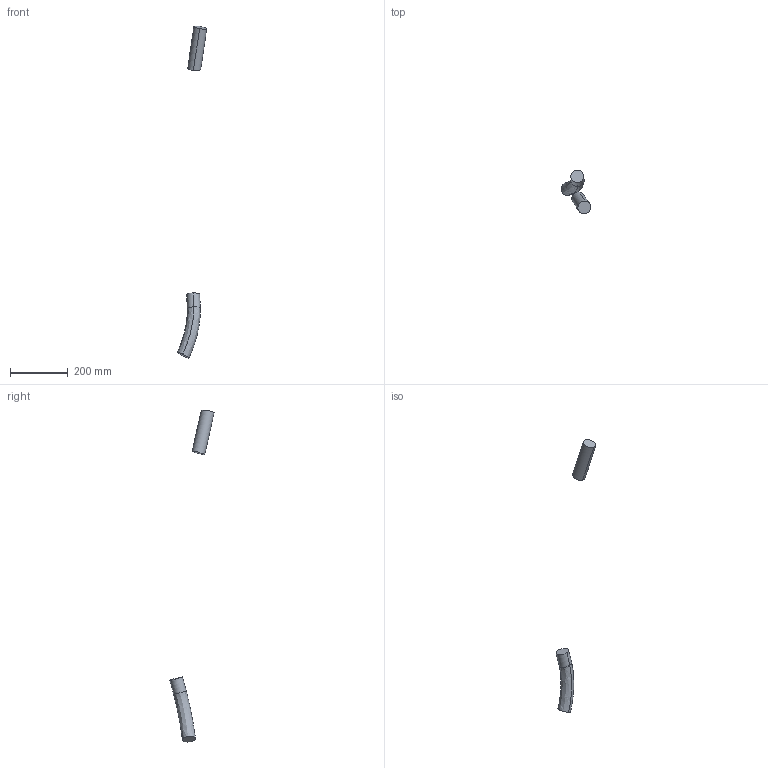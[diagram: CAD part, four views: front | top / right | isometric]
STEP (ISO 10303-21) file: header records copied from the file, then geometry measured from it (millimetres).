
FILE_DESCRIPTION (( 'STEP AP214' ), '1' );
FILE_NAME ('IRB5720-MH3_125kg-300_OmniCore_rev00_LINK02_CABLE.step', '2025-07-08T11:14:05', ( '' ), ( '' ), 'SwSTEP 2.0', 'SolidWorks 2024', '' );
FILE_SCHEMA (( 'AUTOMOTIVE_DESIGN' ));
Length unit declared in the file: millimetre
Products named in the file (1): IRB5720-MH3_125kg-300_OmniCore_rev00_LINK02_CABLE
Bounding box: 101.49 x 152.83 x 1147.3 mm (x, y, z)
Volume: 583488 mm3; surface area: 58227 mm2
Topology: 2 solids, 2 shells, 10 faces, 16 edges, 10 vertices
Faces by surface type: bspline 4, plane 4, cylinder 2
Entity records: 2488 total; most frequent: CARTESIAN_POINT 2185, ORIENTED_EDGE 32, DIRECTION 28, EDGE_CURVE 16, AXIS2_PLACEMENT_3D 13, UNCERTAINTY_MEASURE_WITH_UNIT 13, MECHANICAL_DESIGN_GEOMETRIC_PRESENTATION_REPRESENTATION 12, FILL_AREA_STYLE_COLOUR 12
